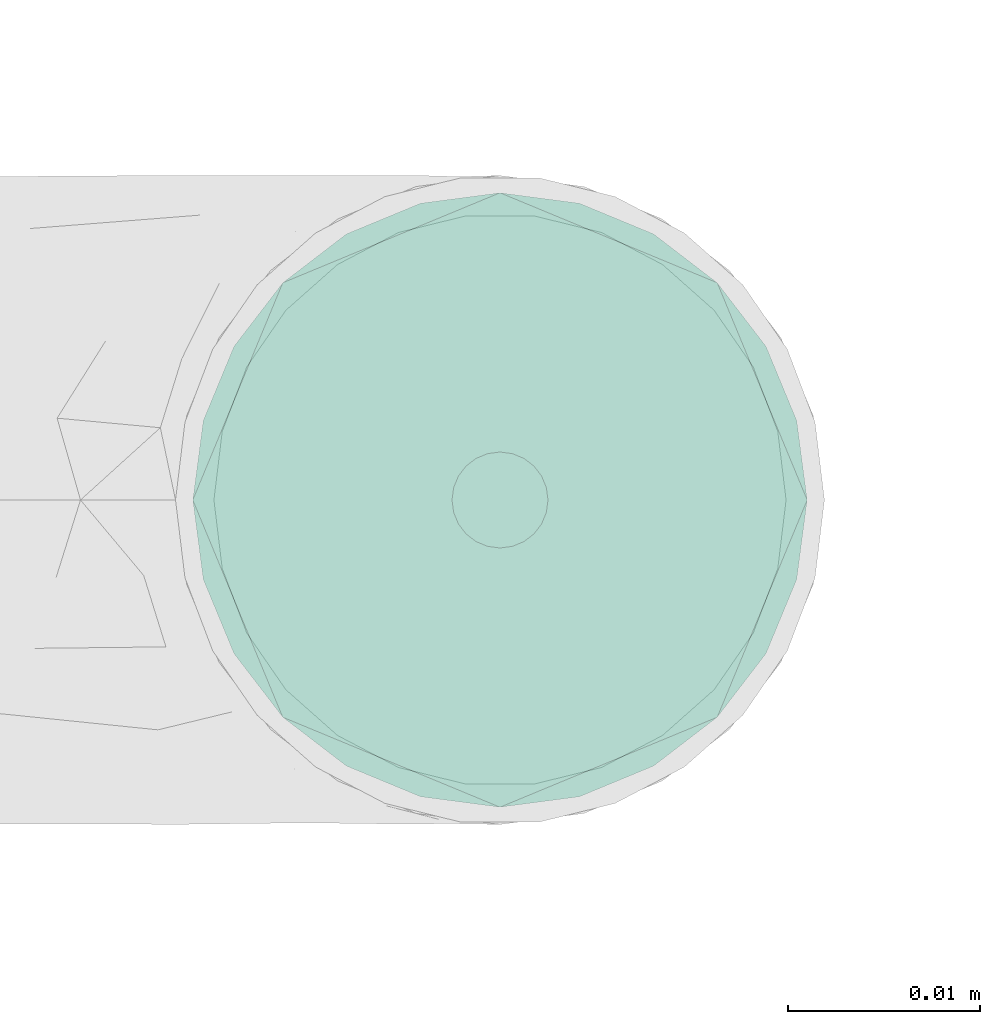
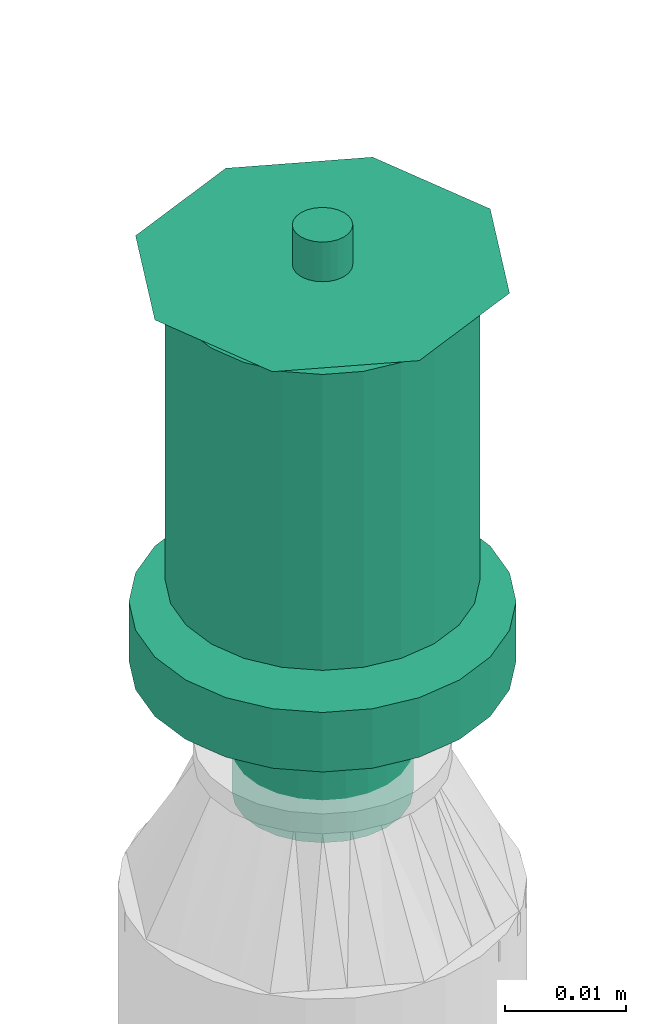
# One storey, part 54 of 63: 1 flow terminal.
"""IFC2X3 building model written with IfcOpenShell, lengths in millimetres."""

import ifcopenshell
import ifcopenshell.guid

model = None  # the IFC model being written
_history = None  # IfcOwnerHistory: only IFC2X3 demands one
_inside = {}  # id of a spatial element -> (the spatial element, [elements in it])
_under = {}  # id of a project, library or spatial element -> (it, [spatial elements below it])
_declared = {}  # id of a project -> (the project, [libraries it declares])
_typed = {}  # id of a type object -> (the type object, [elements of that type])
_made_of = {}  # id of a material, layer set ... -> (it, [elements and type objects made of it])


def new_model(schema):
    """Start an empty IFC model of exactly this schema.

    Asked for "IFC4X3", IfcOpenShell would pick the latest addendum, in which some entities
    have other attributes; the version numbers below select the first issue.
    IFC2X3 requires an IfcOwnerHistory on every rooted entity: one is made here for all.
    """
    global model, _history
    if schema == "IFC4X3":
        model = ifcopenshell.file(schema_version=(4, 3, 0, 0))
    else:
        model = ifcopenshell.file(schema=schema)
    _inside.clear()
    _under.clear()
    _declared.clear()
    _typed.clear()
    _made_of.clear()
    _history = None
    if model.schema == "IFC2X3":
        org = make("IfcOrganization", Name="unknown")
        user = make(
            "IfcPersonAndOrganization",
            ThePerson=make("IfcPerson", FamilyName="unknown"),
            TheOrganization=org,
        )
        app = make(
            "IfcApplication",
            ApplicationDeveloper=org,
            Version="unknown",
            ApplicationFullName="unknown",
            ApplicationIdentifier="unknown",
        )
        _history = make(
            "IfcOwnerHistory",
            OwningUser=user,
            OwningApplication=app,
            ChangeAction="ADDED",
            CreationDate=0,
        )
    return model


def make(cls, **values):
    """One entity of the class cls with the attributes given. An attribute that is None is left unset."""
    return model.create_entity(
        cls, **{name: value for name, value in values.items() if value is not None}
    )


def entity(cls, *values):
    """Any entity or typed value of the class cls, its attributes in the order of the schema. None: left unset."""
    e = model.create_entity(cls)
    for i, value in enumerate(values):
        if value is not None:
            e[i] = value
    return e


def rooted(cls, **values):
    """An entity with a GlobalId (a new one), such as an element, a storey or a relation."""
    return make(cls, GlobalId=ifcopenshell.guid.new(), OwnerHistory=_history, **values)


def si_unit(unit_type, name, prefix=None):
    """IfcSIUnit, for example si_unit("LENGTHUNIT", "METRE", prefix="MILLI")."""
    return make("IfcSIUnit", UnitType=unit_type, Prefix=prefix, Name=name)


def converted_unit(unit_type, name, factor, base, dimensions=None, offset=None):
    """IfcConversionBasedUnit, such as the inch: factor (a typed value) times the base unit."""
    return make(
        "IfcConversionBasedUnit"
        if offset is None
        else "IfcConversionBasedUnitWithOffset",
        ConversionOffset=offset,
        Dimensions=None
        if dimensions is None
        else entity("IfcDimensionalExponents", *dimensions),
        UnitType=unit_type,
        Name=name,
        ConversionFactor=make(
            "IfcMeasureWithUnit", ValueComponent=factor, UnitComponent=base
        ),
    )


def derived_unit(unit_type, elements):
    """IfcDerivedUnit: a product of units, each with its exponent."""
    return make(
        "IfcDerivedUnit",
        Elements=[
            make("IfcDerivedUnitElement", Unit=unit, Exponent=power)
            for unit, power in elements
        ],
        UnitType=unit_type,
    )


def assignment(units):
    """IfcUnitAssignment: the units of a project."""
    return None if units is None else make("IfcUnitAssignment", Units=units)


def point(xyz):
    """IfcCartesianPoint."""
    return None if xyz is None else make("IfcCartesianPoint", Coordinates=xyz)


def direction(xyz):
    """IfcDirection."""
    return None if xyz is None else make("IfcDirection", DirectionRatios=xyz)


def frame(location, z_axis=None, x_axis=None):
    """IfcAxis2Placement3D, a coordinate frame: its origin and axes. An axis left out is left unset."""
    return make(
        "IfcAxis2Placement3D",
        Location=point(location),
        Axis=direction(z_axis),
        RefDirection=direction(x_axis),
    )


def origin_with_axes():
    """The frame at (0, 0, 0) with the z axis (0, 0, 1) and the x axis (1, 0, 0) written out."""
    return frame((0.0, 0.0, 0.0), z_axis=(0.0, 0.0, 1.0), x_axis=(1.0, 0.0, 0.0))


def place(relative_to, where):
    """IfcLocalPlacement: puts the frame where relative to a parent placement (None: the world)."""
    return make(
        "IfcLocalPlacement", PlacementRelTo=relative_to, RelativePlacement=where
    )


def context(
    kind, dimensions, precision=None, world=None, true_north=None, identifier=None
):
    """IfcGeometricRepresentationContext, for example the 3D "Model" context."""
    return make(
        "IfcGeometricRepresentationContext",
        ContextIdentifier=identifier,
        ContextType=kind,
        CoordinateSpaceDimension=dimensions,
        Precision=precision,
        WorldCoordinateSystem=world,
        TrueNorth=true_north,
    )


def subcontext(parent, identifier, kind, view, scale=None):
    """IfcGeometricRepresentationSubContext, for example "Body" below "Model"."""
    return make(
        "IfcGeometricRepresentationSubContext",
        ContextIdentifier=identifier,
        ContextType=kind,
        ParentContext=parent,
        TargetScale=scale,
        TargetView=view,
    )


def project(units=None, contexts=None):
    """IfcProject with its units and contexts."""
    return rooted(
        "IfcProject",
        Name="project",
        RepresentationContexts=contexts,
        UnitsInContext=assignment(units),
    )


def spatial(cls, under=None, at=None, **own):
    """A site, building, storey or space (cls), placed at a placement, below another one or the project."""
    s = rooted(cls, ObjectPlacement=at, **own)
    if under is not None:
        _under.setdefault(under.id(), (under, []))[1].append(s)
    return s


def faces_of(points, faces, orient=None, outer=None):
    """IfcFace entities. A face is a list of loops; a loop is a list of indices into points, from 0.

    orient and outer hold one flag for each loop. By default every Orientation is true, the
    first loop of a face is its IfcFaceOuterBound and the others are IfcFaceBound.
    """
    made = []
    for i, loops in enumerate(faces):
        bounds = []
        for j, loop in enumerate(loops):
            is_outer = j == 0 if outer is None else outer[i][j]
            bounds.append(
                make(
                    "IfcFaceOuterBound" if is_outer else "IfcFaceBound",
                    Bound=make("IfcPolyLoop", Polygon=[points[k] for k in loop]),
                    Orientation=True if orient is None else orient[i][j],
                )
            )
        made.append(make("IfcFace", Bounds=bounds))
    return made


def open_shell(faces, orient=None, outer=None):
    """The faces of one IfcOpenShell. surface_model builds it on its shared points."""
    return ("IfcOpenShell", faces, orient, outer)


def surface_model(cls, points, shells):
    """IfcFaceBasedSurfaceModel or IfcShellBasedSurfaceModel (cls): surfaces that need not close."""
    shared = [point(p) for p in points]
    made = [make(c, CfsFaces=faces_of(shared, fs, o, b)) for c, fs, o, b in shells]
    if cls == "IfcFaceBasedSurfaceModel":
        return make(cls, FbsmFaces=made)
    return make(cls, SbsmBoundary=made)


def shape(context_of_items, identifier, shape_type, items):
    """IfcShapeRepresentation: the items that make up one representation, for example the "Body"."""
    return make(
        "IfcShapeRepresentation",
        ContextOfItems=context_of_items,
        RepresentationIdentifier=identifier,
        RepresentationType=shape_type,
        Items=items,
    )


def source(mapping_origin, context_of_items, identifier, shape_type, items):
    """IfcRepresentationMap: a shape defined once, which mapped items show again and again."""
    return make(
        "IfcRepresentationMap",
        MappingOrigin=mapping_origin,
        MappedRepresentation=shape(context_of_items, identifier, shape_type, items),
    )


def transform(
    local_origin,
    x_axis=None,
    y_axis=None,
    z_axis=None,
    scale=None,
    scale2=None,
    scale3=None,
    uniform=True,
):
    """IfcCartesianTransformationOperator3D, or its non-uniform kind. x_axis, y_axis, z_axis: its Axis1, 2, 3."""
    if uniform:
        return make(
            "IfcCartesianTransformationOperator3D",
            Axis1=direction(x_axis),
            Axis2=direction(y_axis),
            LocalOrigin=point(local_origin),
            Scale=scale,
            Axis3=direction(z_axis),
        )
    return make(
        "IfcCartesianTransformationOperator3DnonUniform",
        Axis1=direction(x_axis),
        Axis2=direction(y_axis),
        LocalOrigin=point(local_origin),
        Scale=scale,
        Axis3=direction(z_axis),
        Scale2=scale2,
        Scale3=scale3,
    )


def mapped(mapping_source, mapping_target):
    """IfcMappedItem: shows the shape of a source again, moved by a transform."""
    return make(
        "IfcMappedItem", MappingSource=mapping_source, MappingTarget=mapping_target
    )


def made_of(thing, what):
    """Note that an element or type object is made of a material, layer set ...; save() writes the relation."""
    if what is not None:
        _made_of.setdefault(what.id(), (what, []))[1].append(thing)
    return thing


def type_object(cls, material=None, **own):
    """A type object (cls), such as IfcWallType, which elements share."""
    return made_of(rooted(cls, **own), material)


def element(
    cls,
    number,
    at=None,
    inside=None,
    cuts=None,
    type_object=None,
    material=None,
    context=None,
    identifier="Body",
    shape_type=None,
    held_by="IfcProductDefinitionShape",
    body=None,
    shapes=None,
    **own,
):
    """One element of the class cls, such as IfcWall. Its Tag is "e" and its number.

    at: its placement. inside: the storey or other place that contains it. cuts: it is an
    opening in that element (IfcRelVoidsElement). A single representation is given by context,
    identifier, shape_type and body (its items); several are given by shapes. held_by: the class
    of the entity that holds the representations. save() writes the other relations.
    """
    e = rooted(cls, Tag="e%d" % number, ObjectPlacement=at, **own)
    if body is not None:
        shapes = [shape(context, identifier, shape_type, body)]
    if shapes is not None:
        e.Representation = make(held_by, Representations=shapes)
    if inside is not None:
        _inside.setdefault(inside.id(), (inside, []))[1].append(e)
    if cuts is not None:
        rooted(
            "IfcRelVoidsElement", RelatingBuildingElement=cuts, RelatedOpeningElement=e
        )
    if type_object is not None:
        _typed.setdefault(type_object.id(), (type_object, []))[1].append(e)
    return made_of(e, material)


def aggregate(whole, parts):
    """IfcRelAggregates: a whole, such as a stair, and the parts it consists of."""
    return rooted("IfcRelAggregates", RelatingObject=whole, RelatedObjects=parts)


def save(model, path):
    """Write the relations noted so far, then the file.

    IfcRelAggregates (storeys below a building ...), IfcRelContainedInSpatialStructure (elements
    in a storey), IfcRelDefinesByType, IfcRelAssociatesMaterial and IfcRelDeclares: one each for
    every whole, place, type object, material and project.
    """
    for whole, parts in _under.values():
        aggregate(whole, parts)
    for where, things in _inside.values():
        rooted(
            "IfcRelContainedInSpatialStructure",
            RelatedElements=things,
            RelatingStructure=where,
        )
    for kind, things in _typed.values():
        rooted("IfcRelDefinesByType", RelatedObjects=things, RelatingType=kind)
    for what, things in _made_of.values():
        rooted("IfcRelAssociatesMaterial", RelatedObjects=things, RelatingMaterial=what)
    for by, libraries in _declared.values():
        rooted("IfcRelDeclares", RelatingContext=by, RelatedDefinitions=libraries)
    model.write(path)


model = new_model("IFC2X3")

# Units and contexts
model_context = context("Model", 3, precision=0.01, world=frame((0.0, 4.29681676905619e-09, 0.0)), true_north=direction((4.01073788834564e-13, 1.0)))
plan_context = context("Plan", 3, precision=0.01, world=frame((0.0, 4.29681676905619e-09, 0.0)), true_north=direction((4.01073788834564e-13, 1.0)))
body_context = subcontext(model_context, "Body", "Model", "MODEL_VIEW")
ifc_project = project(units=[converted_unit("PLANEANGLEUNIT", "DEGREE", entity("IfcPositiveLengthMeasure", 0.0174532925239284), si_unit("PLANEANGLEUNIT", "RADIAN"), dimensions=[0, 0, 0, 0, 0, 0, 0]), si_unit("AREAUNIT", "SQUARE_METRE"), si_unit("LENGTHUNIT", "METRE", prefix="MILLI"), si_unit("MASSUNIT", "GRAM", prefix="KILO"), si_unit("POWERUNIT", "WATT"), si_unit("PRESSUREUNIT", "PASCAL", prefix="KILO"), si_unit("FORCEUNIT", "NEWTON", prefix="KILO"), si_unit("ELECTRICVOLTAGEUNIT", "VOLT"), si_unit("ELECTRICCURRENTUNIT", "AMPERE"), si_unit("THERMODYNAMICTEMPERATUREUNIT", "DEGREE_CELSIUS"), si_unit("TIMEUNIT", "SECOND"), si_unit("VOLUMEUNIT", "CUBIC_METRE"), derived_unit("LINEARVELOCITYUNIT", [(si_unit("LENGTHUNIT", "METRE"), 1), (si_unit("TIMEUNIT", "SECOND"), -1)]), derived_unit("VOLUMETRICFLOWRATEUNIT", [(si_unit("VOLUMEUNIT", "CUBIC_METRE"), 1), (si_unit("TIMEUNIT", "SECOND"), -1)]), derived_unit("THERMALTRANSMITTANCEUNIT", [(si_unit("POWERUNIT", "WATT"), 1), (si_unit("THERMODYNAMICTEMPERATUREUNIT", "KELVIN"), -1), (si_unit("AREAUNIT", "SQUARE_METRE"), -1)]), derived_unit("SOUNDPRESSUREUNIT", [(si_unit("PRESSUREUNIT", "PASCAL"), 1)])], contexts=[model_context, plan_context])

# Site, building, storey
site_placement = place(None, frame((0.0, -4.29681676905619e-09, 0.0), z_axis=(0.0, 0.0, 1.0), x_axis=(1.0, 0.0, 0.0)))
site = spatial("IfcSite", under=ifc_project, at=site_placement, CompositionType="ELEMENT")
building_placement = place(site_placement, frame((0.0, 4.29681676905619e-09, 0.0), z_axis=(0.0, 0.0, 1.0), x_axis=(1.0, 0.0, 0.0)))
building = spatial("IfcBuilding", under=site, at=building_placement, Name="mc-building", CompositionType="ELEMENT")
storey_placement = place(building_placement, frame((0.0, 0.0, 207370.0), z_axis=(0.0, 0.0, 1.0), x_axis=(1.0, 0.0, 0.0)))
storey = spatial("IfcBuildingStorey", under=building, at=storey_placement, Name="Nivå E", CompositionType="ELEMENT", Elevation=207370.0)

# Flow terminal
fire_suppression_terminal_type = type_object("IfcFireSuppressionTerminalType", Name="68DGR-STD-STÅENDE", PredefinedType="NOTDEFINED")
shared_shape = source(origin_with_axes(), body_context, "Body", "SurfaceModel", [
    surface_model("IfcShellBasedSurfaceModel", [(3.36465, -12.55704, 51.0), (6.5, -11.25833, 51.0), (9.19239, -9.19239, 51.0), (12.55704, -3.36465, 51.0), (-11.25833, -6.5, 51.0), (11.25833, -6.5, 51.0), (-13.0, 0.0, 51.0), (0.0, -13.0, 51.0), (-6.5, -11.25833, 51.0), (-3.36465, -12.55704, 51.0), (-9.19239, -9.19239, 51.0), (-12.55704, -3.36465, 51.0), (13.0, 0.0, 51.0), (12.55704, 3.36465, 51.0), (11.25833, 6.5, 51.0), (9.19239, 9.19239, 51.0), (6.5, 11.25833, 51.0), (3.36465, 12.55704, 51.0), (0.0, 13.0, 51.0), (-3.36465, 12.55704, 51.0), (-12.55704, 3.36465, 51.0), (-9.19239, 9.19239, 51.0), (-11.25833, 6.5, 51.0), (-6.5, 11.25833, 51.0), (0.0, 13.0, 21.14766), (3.36465, 12.55704, 21.14766), (6.5, 11.25833, 21.14766), (-3.36465, 12.55704, 21.14766), (9.19239, 9.19239, 21.14766), (11.25833, 6.5, 21.14766), (12.55704, 3.36465, 21.14766), (-12.55704, 3.36465, 21.14766), (-11.25833, -6.5, 21.14766), (-9.19239, 9.19239, 21.14766), (-6.5, 11.25833, 21.14766), (-11.25833, 6.5, 21.14766), (-13.0, 0.0, 21.14766), (12.55704, -3.36465, 21.14766), (9.19239, -9.19239, 21.14766), (11.25833, -6.5, 21.14766), (6.5, -11.25833, 21.14766), (3.36465, -12.55704, 21.14766), (-6.5, -11.25833, 21.14766), (-9.19239, -9.19239, 21.14766), (-12.55704, -3.36465, 21.14766), (0.0, -13.0, 21.14766), (-3.36465, -12.55704, 21.14766), (13.0, 0.0, 21.14766), (7.24444, -1.94114, 0.1), (1.94114, -7.24444, 0.1), (3.75, -6.49519, 0.1), (5.3033, -5.3033, 0.1), (-5.3033, -5.3033, 0.1), (6.49519, -3.75, 0.1), (5.3033, 5.3033, 0.1), (0.0, -7.5, 0.1), (-3.75, -6.49519, 0.1), (-1.94114, -7.24444, 0.1), (-7.24444, -1.94114, 0.1), (-6.49519, -3.75, 0.1), (-7.24444, 1.94114, 0.1), (7.5, 0.0, 0.1), (6.49519, 3.75, 0.1), (-6.49519, 3.75, 0.1), (1.94114, 7.24444, 0.1), (0.0, 7.5, 0.1), (3.75, 6.49519, 0.1), (-7.5, 0.0, 0.1), (-5.3033, 5.3033, 0.1), (-1.94114, 7.24444, 0.1), (-3.75, 6.49519, 0.1), (7.24444, 1.94114, 0.1), (1.94114, 7.24444, -0.1), (-6.49519, 3.75, -0.1), (0.0, 7.5, -0.1), (5.3033, 5.3033, -0.1), (3.75, 6.49519, -0.1), (6.49519, 3.75, -0.1), (7.24444, 1.94114, -0.1), (-1.94114, 7.24444, -0.1), (-5.3033, 5.3033, -0.1), (-3.75, 6.49519, -0.1), (-7.24444, 1.94114, -0.1), (-7.24444, -1.94114, -0.1), (-7.5, 0.0, -0.1), (7.5, 0.0, -0.1), (7.24444, -1.94114, -0.1), (-5.3033, -5.3033, -0.1), (1.94114, -7.24444, -0.1), (6.49519, -3.75, -0.1), (5.3033, -5.3033, -0.1), (3.75, -6.49519, -0.1), (-6.49519, -3.75, -0.1), (-3.75, -6.49519, -0.1), (0.0, -7.5, -0.1), (-1.94114, -7.24444, -0.1), (0.0, -2.5, 51.0), (-2.5, 0.0, 51.0), (0.0, 2.5, 51.0), (2.5, 0.0, 51.0), (0.0, -16.0, 53.0), (11.31371, -11.31371, 53.0), (-11.31371, -11.31371, 53.0), (-16.0, 0.0, 53.0), (16.0, 0.0, 53.0), (11.31371, 11.31371, 53.0), (0.0, 16.0, 53.0), (-11.31371, 11.31371, 53.0), (1.25, -2.16506, 57.0), (0.0, -2.5, 57.0), (0.64705, -2.41481, 57.0), (2.41481, -0.64705, 57.0), (1.76777, -1.76777, 57.0), (-2.41481, -0.64705, 57.0), (-2.5, 0.0, 57.0), (2.16506, -1.25, 57.0), (-1.25, -2.16506, 57.0), (-0.64705, -2.41481, 57.0), (-1.76777, -1.76777, 57.0), (-2.16506, -1.25, 57.0), (2.5, 0.0, 57.0), (2.41481, 0.64705, 57.0), (2.16506, 1.25, 57.0), (1.76777, 1.76777, 57.0), (0.64705, 2.41481, 57.0), (1.25, 2.16506, 57.0), (-1.76777, 1.76777, 57.0), (0.0, 2.5, 57.0), (-2.16506, 1.25, 57.0), (-2.41481, 0.64705, 57.0), (-0.64705, 2.41481, 57.0), (-1.25, 2.16506, 57.0), (1.25, 2.16506, 51.0), (1.76777, 1.76777, 51.0), (1.15, 1.99186, 51.0), (0.59528, 2.22163, 51.0), (0.64705, 2.41481, 51.0), (0.0, 2.3, 51.0), (1.62635, 1.62635, 51.0), (2.41481, 0.64705, 51.0), (2.3, 0.0, 51.0), (2.22163, 0.59528, 51.0), (2.16506, 1.25, 51.0), (1.99186, 1.15, 51.0), (-0.59528, 2.22163, 51.0), (-0.64705, 2.41481, 51.0), (-1.15, 1.99186, 51.0), (-1.76777, 1.76777, 51.0), (-1.25, 2.16506, 51.0), (-1.62635, 1.62635, 51.0), (-1.99186, 1.15, 51.0), (-2.16506, 1.25, 51.0), (-2.22163, 0.59528, 51.0), (-2.41481, 0.64705, 51.0), (-2.3, 0.0, 51.0), (2.41481, -0.64705, 51.0), (2.22163, -0.59528, 51.0), (1.99186, -1.15, 51.0), (2.16506, -1.25, 51.0), (1.62635, -1.62635, 51.0), (1.76777, -1.76777, 51.0), (1.25, -2.16506, 51.0), (1.15, -1.99186, 51.0), (0.59528, -2.22163, 51.0), (0.64705, -2.41481, 51.0), (0.0, -2.3, 51.0), (-2.16506, -1.25, 51.0), (-1.99186, -1.15, 51.0), (-1.76777, -1.76777, 51.0), (-1.62635, -1.62635, 51.0), (-2.41481, -0.64705, 51.0), (-2.22163, -0.59528, 51.0), (-0.59528, -2.22163, 51.0), (-0.64705, -2.41481, 51.0), (-1.15, -1.99186, 51.0), (-1.25, -2.16506, 51.0), (1.62635, -1.62635, 56.8), (1.15, -1.99186, 56.8), (0.59528, -2.22163, 56.8), (0.0, -2.3, 56.8), (2.22163, 0.59528, 56.8), (1.99186, -1.15, 56.8), (2.22163, -0.59528, 56.8), (-0.59528, -2.22163, 56.8), (-1.15, -1.99186, 56.8), (-1.62635, -1.62635, 56.8), (-1.99186, -1.15, 56.8), (-2.22163, -0.59528, 56.8), (-1.99186, 1.15, 56.8), (2.3, 0.0, 56.8), (1.62635, 1.62635, 56.8), (1.99186, 1.15, 56.8), (1.15, 1.99186, 56.8), (0.0, 2.3, 56.8), (0.59528, 2.22163, 56.8), (-2.22163, 0.59528, 56.8), (-2.3, 0.0, 56.8), (-1.15, 1.99186, 56.8), (-0.59528, 2.22163, 56.8), (-1.62635, 1.62635, 56.8), (4.1411, -15.45481, 19.0), (8.0, -13.85641, 19.0), (11.31371, -11.31371, 19.0), (-8.0, -13.85641, 19.0), (15.45481, -4.1411, 19.0), (16.0, 0.0, 19.0), (13.85641, -8.0, 19.0), (0.0, -16.0, 19.0), (-4.1411, -15.45481, 19.0), (-13.85641, -8.0, 19.0), (-11.31371, -11.31371, 19.0), (-15.45481, -4.1411, 19.0), (15.45481, 4.1411, 19.0), (13.85641, 8.0, 19.0), (11.31371, 11.31371, 19.0), (-4.1411, 15.45481, 19.0), (8.0, 13.85641, 19.0), (4.1411, 15.45481, 19.0), (0.0, 16.0, 19.0), (-13.85641, 8.0, 19.0), (-15.45481, 4.1411, 19.0), (-16.0, 0.0, 19.0), (-11.31371, 11.31371, 19.0), (-8.0, 13.85641, 19.0), (0.0, 16.0, 13.0), (4.1411, 15.45481, 13.0), (8.0, 13.85641, 13.0), (-4.1411, 15.45481, 13.0), (11.31371, 11.31371, 13.0), (13.85641, 8.0, 13.0), (15.45481, 4.1411, 13.0), (-15.45481, -4.1411, 13.0), (-11.31371, 11.31371, 13.0), (-8.0, 13.85641, 13.0), (-13.85641, 8.0, 13.0), (-15.45481, 4.1411, 13.0), (-16.0, 0.0, 13.0), (4.1411, -15.45481, 13.0), (16.0, 0.0, 13.0), (15.45481, -4.1411, 13.0), (13.85641, -8.0, 13.0), (11.31371, -11.31371, 13.0), (8.0, -13.85641, 13.0), (-8.0, -13.85641, 13.0), (-13.85641, -8.0, 13.0), (-11.31371, -11.31371, 13.0), (0.0, -16.0, 13.0), (-4.1411, -15.45481, 13.0), (7.24444, -1.94114, 13.0), (1.94114, -7.24444, 13.0), (3.75, -6.49519, 13.0), (5.3033, -5.3033, 13.0), (-5.3033, -5.3033, 13.0), (6.49519, -3.75, 13.0), (5.3033, 5.3033, 13.0), (0.0, -7.5, 13.0), (-3.75, -6.49519, 13.0), (-1.94114, -7.24444, 13.0), (-7.24444, -1.94114, 13.0), (-6.49519, -3.75, 13.0), (-7.24444, 1.94114, 13.0), (7.5, 0.0, 13.0), (6.49519, 3.75, 13.0), (-6.49519, 3.75, 13.0), (1.94114, 7.24444, 13.0), (0.0, 7.5, 13.0), (3.75, 6.49519, 13.0), (-7.5, 0.0, 13.0), (-5.3033, 5.3033, 13.0), (-1.94114, 7.24444, 13.0), (-3.75, 6.49519, 13.0), (7.24444, 1.94114, 13.0), (3.75, 6.49519, 0.0), (5.3033, 5.3033, 0.0), (3.65, 6.32199, 0.0), (1.88938, 7.05126, 0.0), (0.0, 7.3, 0.0), (1.94114, 7.24444, 0.0), (0.0, 7.5, 0.0), (5.16188, 5.16188, 0.0), (7.24444, 1.94114, 0.0), (7.3, 0.0, 0.0), (7.05126, 1.88938, 0.0), (7.5, 0.0, 0.0), (6.49519, 3.75, 0.0), (6.32199, 3.65, 0.0), (-1.88938, 7.05126, 0.0), (-1.94114, 7.24444, 0.0), (-3.65, 6.32199, 0.0), (-5.3033, 5.3033, 0.0), (-3.75, 6.49519, 0.0), (-5.16188, 5.16188, 0.0), (-6.32199, 3.65, 0.0), (-6.49519, 3.75, 0.0), (-7.05126, 1.88938, 0.0), (-7.24444, 1.94114, 0.0), (-7.3, 0.0, 0.0), (-7.5, 0.0, 0.0), (7.24444, -1.94114, 0.0), (7.05126, -1.88938, 0.0), (6.32199, -3.65, 0.0), (6.49519, -3.75, 0.0), (5.16188, -5.16188, 0.0), (5.3033, -5.3033, 0.0), (3.75, -6.49519, 0.0), (3.65, -6.32199, 0.0), (1.88938, -7.05126, 0.0), (1.94114, -7.24444, 0.0), (0.0, -7.3, 0.0), (0.0, -7.5, 0.0), (-6.49519, -3.75, 0.0), (-6.32199, -3.65, 0.0), (-5.3033, -5.3033, 0.0), (-5.16188, -5.16188, 0.0), (-7.24444, -1.94114, 0.0), (-7.05126, -1.88938, 0.0), (-1.88938, -7.05126, 0.0), (-1.94114, -7.24444, 0.0), (-3.65, -6.32199, 0.0), (-3.75, -6.49519, 0.0), (1.88938, -7.05126, 12.8), (0.0, -7.3, 12.8), (3.65, -6.32199, 12.8), (5.16188, -5.16188, 12.8), (6.32199, -3.65, 12.8), (7.05126, 1.88938, 12.8), (7.05126, -1.88938, 12.8), (-5.16188, -5.16188, 12.8), (-1.88938, -7.05126, 12.8), (-3.65, -6.32199, 12.8), (-6.32199, -3.65, 12.8), (-7.05126, -1.88938, 12.8), (0.0, 7.3, 12.8), (7.3, 0.0, 12.8), (6.32199, 3.65, 12.8), (5.16188, 5.16188, 12.8), (3.65, 6.32199, 12.8), (1.88938, 7.05126, 12.8), (-6.32199, 3.65, 12.8), (-7.05126, 1.88938, 12.8), (-7.3, 0.0, 12.8), (-3.65, 6.32199, 12.8), (-1.88938, 7.05126, 12.8), (-5.16188, 5.16188, 12.8)], [open_shell([[[0, 1, 2]], [[0, 2, 3]], [[0, 3, 4]], [[3, 2, 5]], [[6, 4, 3]], [[7, 8, 9]], [[7, 0, 8]], [[8, 4, 10]], [[0, 4, 8]], [[4, 6, 11]], [[6, 3, 12]], [[13, 14, 15]], [[6, 13, 15]], [[16, 17, 18]], [[15, 16, 19]], [[18, 19, 16]], [[20, 21, 22]], [[20, 6, 15]], [[21, 19, 23]], [[19, 21, 20]], [[15, 19, 20]], [[13, 6, 12]], [[24, 25, 26]], [[27, 24, 26]], [[28, 29, 30]], [[26, 28, 31]], [[28, 32, 31]], [[27, 33, 34]], [[33, 27, 31]], [[33, 31, 35]], [[27, 26, 31]], [[31, 32, 36]], [[32, 28, 30]], [[32, 30, 37]], [[38, 37, 39]], [[38, 40, 41]], [[38, 41, 37]], [[32, 37, 41]], [[32, 42, 43]], [[44, 36, 32]], [[42, 45, 46]], [[42, 32, 41]], [[45, 42, 41]], [[30, 47, 37]], [[4, 32, 43]], [[8, 42, 46]], [[43, 42, 10]], [[9, 46, 45]], [[36, 11, 6]], [[11, 36, 44]], [[11, 44, 4]], [[44, 32, 4]], [[43, 10, 4]], [[8, 10, 42]], [[46, 9, 8]], [[45, 7, 9]], [[0, 41, 40]], [[38, 1, 40]], [[5, 39, 37]], [[38, 39, 2]], [[3, 37, 47]], [[41, 0, 7]], [[40, 1, 0]], [[38, 2, 1]], [[39, 5, 2]], [[3, 5, 37]], [[47, 12, 3]], [[41, 7, 45]], [[30, 13, 47]], [[29, 14, 30]], [[25, 24, 17]], [[15, 29, 28]], [[30, 14, 13]], [[13, 12, 47]], [[16, 26, 17]], [[16, 15, 28]], [[26, 25, 17]], [[15, 14, 29]], [[28, 26, 16]], [[24, 18, 17]], [[19, 27, 34]], [[33, 23, 34]], [[22, 35, 31]], [[33, 35, 21]], [[20, 31, 36]], [[27, 19, 18]], [[34, 23, 19]], [[33, 21, 23]], [[35, 22, 21]], [[20, 22, 31]], [[36, 6, 20]], [[27, 18, 24]], [[48, 49, 50]], [[48, 50, 51]], [[49, 48, 52]], [[48, 51, 53]], [[54, 52, 48]], [[55, 56, 57]], [[56, 55, 52]], [[52, 58, 59]], [[52, 55, 49]], [[52, 60, 58]], [[54, 48, 61]], [[62, 54, 61]], [[54, 63, 52]], [[64, 65, 54]], [[64, 54, 66]], [[63, 54, 65]], [[63, 60, 52]], [[67, 58, 60]], [[68, 69, 70]], [[69, 68, 63]], [[69, 63, 65]], [[71, 62, 61]], [[72, 73, 74]], [[75, 72, 76]], [[75, 77, 78]], [[72, 75, 73]], [[78, 73, 75]], [[79, 80, 81]], [[80, 79, 73]], [[74, 73, 79]], [[78, 82, 73]], [[82, 83, 84]], [[82, 78, 85]], [[86, 87, 85]], [[88, 86, 89]], [[90, 91, 88]], [[90, 88, 89]], [[87, 86, 88]], [[83, 87, 92]], [[83, 85, 87]], [[93, 94, 95]], [[94, 93, 87]], [[88, 94, 87]], [[85, 83, 82]], [[83, 58, 84]], [[92, 59, 83]], [[56, 87, 93]], [[92, 87, 52]], [[57, 93, 95]], [[83, 59, 58]], [[58, 67, 84]], [[57, 56, 93]], [[52, 87, 56]], [[52, 59, 92]], [[55, 57, 95]], [[95, 94, 55]], [[88, 49, 94]], [[91, 50, 88]], [[53, 90, 89]], [[91, 90, 51]], [[48, 89, 86]], [[91, 51, 50]], [[50, 49, 88]], [[61, 48, 86]], [[53, 89, 48]], [[53, 51, 90]], [[85, 61, 86]], [[94, 49, 55]], [[78, 71, 85]], [[77, 62, 78]], [[66, 75, 76]], [[77, 75, 54]], [[64, 76, 72]], [[78, 62, 71]], [[71, 61, 85]], [[64, 66, 76]], [[54, 75, 66]], [[54, 62, 77]], [[65, 64, 72]], [[72, 74, 65]], [[79, 69, 74]], [[81, 70, 79]], [[63, 80, 73]], [[81, 80, 68]], [[60, 73, 82]], [[81, 68, 70]], [[70, 69, 79]], [[67, 60, 82]], [[63, 73, 60]], [[63, 68, 80]], [[84, 67, 82]], [[74, 69, 65]], [[96, 97, 98]], [[98, 99, 96]], [[100, 101, 102]], [[103, 102, 101]], [[101, 104, 103]], [[104, 105, 106]], [[107, 103, 106]], [[106, 103, 104]], [[99, 98, 105]], [[105, 104, 99]], [[98, 106, 105]], [[98, 107, 106]], [[107, 98, 97]], [[103, 107, 97]], [[97, 96, 102]], [[102, 103, 97]], [[96, 100, 102]], [[96, 101, 100]], [[101, 96, 99]], [[104, 101, 99]], [[108, 109, 110]], [[111, 108, 112]], [[113, 108, 114]], [[111, 112, 115]], [[108, 111, 114]], [[109, 116, 117]], [[116, 109, 118]], [[118, 113, 119]], [[118, 109, 108]], [[108, 113, 118]], [[111, 120, 114]], [[121, 122, 123]], [[114, 121, 123]], [[114, 123, 124]], [[124, 123, 125]], [[126, 124, 127]], [[124, 128, 129]], [[129, 114, 124]], [[126, 130, 131]], [[128, 124, 126]], [[130, 126, 127]], [[121, 114, 120]], [[132, 133, 134]], [[132, 134, 135]], [[136, 135, 137]], [[135, 136, 132]], [[136, 137, 98]], [[134, 133, 138]], [[139, 140, 141]], [[140, 139, 99]], [[139, 141, 142]], [[138, 142, 143]], [[142, 138, 133]], [[143, 142, 141]], [[98, 144, 145]], [[98, 137, 144]], [[145, 144, 146]], [[147, 148, 149]], [[146, 148, 145]], [[149, 148, 146]], [[150, 151, 147]], [[151, 150, 152]], [[150, 147, 149]], [[153, 152, 154]], [[152, 153, 151]], [[153, 154, 97]], [[99, 155, 156]], [[156, 155, 157]], [[157, 158, 159]], [[158, 157, 155]], [[159, 158, 160]], [[160, 161, 162]], [[162, 161, 163]], [[163, 164, 165]], [[164, 163, 161]], [[165, 164, 96]], [[162, 159, 160]], [[166, 167, 168]], [[168, 167, 169]], [[167, 166, 170]], [[97, 171, 170]], [[170, 171, 167]], [[97, 154, 171]], [[172, 96, 173]], [[172, 173, 174]], [[169, 175, 168]], [[175, 169, 174]], [[175, 174, 173]], [[165, 96, 172]], [[156, 140, 99]], [[170, 113, 97]], [[166, 119, 170]], [[116, 168, 175]], [[166, 168, 118]], [[117, 175, 173]], [[170, 119, 113]], [[113, 114, 97]], [[117, 116, 175]], [[118, 168, 116]], [[118, 119, 166]], [[109, 117, 173]], [[173, 96, 109]], [[164, 110, 96]], [[161, 108, 164]], [[115, 160, 158]], [[161, 160, 112]], [[111, 158, 155]], [[161, 112, 108]], [[108, 110, 164]], [[120, 111, 155]], [[115, 158, 111]], [[115, 112, 160]], [[99, 120, 155]], [[96, 110, 109]], [[139, 121, 99]], [[142, 122, 139]], [[125, 133, 132]], [[142, 133, 123]], [[124, 132, 136]], [[139, 122, 121]], [[121, 120, 99]], [[124, 125, 132]], [[123, 133, 125]], [[123, 122, 142]], [[127, 124, 136]], [[136, 98, 127]], [[145, 130, 98]], [[148, 131, 145]], [[128, 147, 151]], [[148, 147, 126]], [[129, 151, 153]], [[148, 126, 131]], [[131, 130, 145]], [[114, 129, 153]], [[128, 151, 129]], [[128, 126, 147]], [[97, 114, 153]], [[98, 130, 127]], [[176, 177, 178]], [[176, 178, 179]], [[180, 176, 179]], [[181, 176, 182]], [[180, 182, 176]], [[183, 184, 179]], [[185, 179, 184]], [[186, 187, 185]], [[185, 187, 188]], [[179, 185, 188]], [[189, 182, 180]], [[190, 191, 180]], [[192, 190, 180]], [[193, 194, 192]], [[180, 193, 192]], [[188, 193, 180]], [[195, 188, 196]], [[196, 188, 187]], [[197, 198, 199]], [[188, 199, 198]], [[188, 198, 193]], [[180, 179, 188]], [[154, 187, 171]], [[171, 186, 167]], [[174, 169, 184]], [[185, 169, 167]], [[172, 174, 183]], [[187, 186, 171]], [[154, 196, 187]], [[174, 184, 183]], [[184, 169, 185]], [[167, 186, 185]], [[172, 183, 179]], [[179, 165, 172]], [[165, 178, 163]], [[163, 177, 162]], [[157, 159, 181]], [[176, 159, 162]], [[156, 157, 182]], [[177, 176, 162]], [[163, 178, 177]], [[156, 182, 189]], [[182, 157, 181]], [[159, 176, 181]], [[156, 189, 140]], [[179, 178, 165]], [[140, 180, 141]], [[141, 191, 143]], [[134, 138, 192]], [[190, 138, 143]], [[135, 134, 194]], [[180, 191, 141]], [[140, 189, 180]], [[134, 192, 194]], [[192, 138, 190]], [[143, 191, 190]], [[135, 194, 193]], [[193, 137, 135]], [[137, 198, 144]], [[144, 197, 146]], [[150, 149, 188]], [[199, 149, 146]], [[152, 150, 195]], [[197, 199, 146]], [[144, 198, 197]], [[152, 195, 196]], [[195, 150, 188]], [[149, 199, 188]], [[152, 196, 154]], [[193, 198, 137]], [[200, 201, 202]], [[203, 200, 202]], [[204, 205, 202]], [[204, 202, 206]], [[203, 202, 205]], [[207, 203, 208]], [[207, 200, 203]], [[203, 209, 210]], [[209, 203, 211]], [[205, 211, 203]], [[205, 212, 211]], [[212, 213, 214]], [[215, 212, 214]], [[216, 217, 218]], [[214, 216, 215]], [[218, 215, 216]], [[211, 219, 220]], [[221, 211, 220]], [[222, 215, 223]], [[215, 222, 219]], [[219, 211, 215]], [[211, 212, 215]], [[224, 225, 226]], [[227, 224, 226]], [[228, 229, 230]], [[227, 226, 228]], [[227, 228, 231]], [[227, 232, 233]], [[232, 227, 234]], [[234, 231, 235]], [[231, 234, 227]], [[235, 231, 236]], [[228, 230, 231]], [[237, 238, 239]], [[237, 239, 240]], [[241, 242, 237]], [[241, 237, 240]], [[238, 237, 243]], [[244, 243, 245]], [[243, 244, 231]], [[243, 246, 247]], [[243, 231, 238]], [[237, 246, 243]], [[238, 231, 230]], [[231, 211, 236]], [[244, 209, 231]], [[203, 245, 243]], [[244, 245, 210]], [[208, 243, 247]], [[231, 209, 211]], [[211, 221, 236]], [[208, 203, 243]], [[210, 245, 203]], [[210, 209, 244]], [[207, 208, 247]], [[247, 246, 207]], [[237, 200, 246]], [[242, 201, 237]], [[206, 241, 240]], [[242, 241, 202]], [[204, 240, 239]], [[242, 202, 201]], [[201, 200, 237]], [[205, 204, 239]], [[206, 240, 204]], [[206, 202, 241]], [[238, 205, 239]], [[246, 200, 207]], [[230, 212, 238]], [[229, 213, 230]], [[216, 228, 226]], [[229, 228, 214]], [[217, 226, 225]], [[230, 213, 212]], [[212, 205, 238]], [[217, 216, 226]], [[214, 228, 216]], [[214, 213, 229]], [[218, 217, 225]], [[225, 224, 218]], [[227, 215, 224]], [[233, 223, 227]], [[219, 232, 234]], [[233, 232, 222]], [[220, 234, 235]], [[233, 222, 223]], [[223, 215, 227]], [[221, 220, 235]], [[219, 234, 220]], [[219, 222, 232]], [[236, 221, 235]], [[224, 215, 218]], [[248, 249, 250]], [[248, 250, 251]], [[249, 248, 252]], [[248, 251, 253]], [[254, 252, 248]], [[255, 256, 257]], [[256, 255, 252]], [[252, 258, 259]], [[252, 255, 249]], [[252, 260, 258]], [[254, 248, 261]], [[262, 254, 261]], [[254, 263, 252]], [[264, 265, 254]], [[264, 254, 266]], [[263, 254, 265]], [[263, 260, 252]], [[267, 258, 260]], [[268, 269, 270]], [[269, 268, 263]], [[269, 263, 265]], [[271, 262, 261]], [[272, 273, 274]], [[272, 274, 275]], [[276, 277, 275]], [[277, 276, 278]], [[275, 277, 272]], [[274, 273, 279]], [[280, 281, 282]], [[281, 280, 283]], [[280, 282, 284]], [[279, 284, 285]], [[284, 279, 273]], [[285, 284, 282]], [[278, 286, 287]], [[287, 286, 288]], [[289, 290, 291]], [[288, 290, 287]], [[288, 291, 290]], [[278, 276, 286]], [[292, 293, 289]], [[293, 292, 294]], [[292, 289, 291]], [[295, 294, 296]], [[294, 295, 293]], [[295, 296, 297]], [[283, 298, 299]], [[299, 298, 300]], [[300, 301, 302]], [[301, 300, 298]], [[302, 301, 303]], [[303, 304, 305]], [[305, 304, 306]], [[306, 307, 308]], [[307, 306, 304]], [[308, 307, 309]], [[305, 302, 303]], [[310, 311, 312]], [[312, 311, 313]], [[311, 310, 314]], [[297, 315, 314]], [[314, 315, 311]], [[297, 296, 315]], [[316, 309, 317]], [[316, 317, 318]], [[313, 319, 312]], [[313, 318, 319]], [[319, 318, 317]], [[308, 309, 316]], [[299, 281, 283]], [[314, 258, 297]], [[310, 259, 314]], [[256, 312, 319]], [[310, 312, 252]], [[257, 319, 317]], [[314, 259, 258]], [[258, 267, 297]], [[257, 256, 319]], [[252, 312, 256]], [[252, 259, 310]], [[255, 257, 317]], [[317, 309, 255]], [[307, 249, 309]], [[304, 250, 307]], [[253, 303, 301]], [[304, 303, 251]], [[248, 301, 298]], [[304, 251, 250]], [[250, 249, 307]], [[261, 248, 298]], [[253, 301, 248]], [[253, 251, 303]], [[283, 261, 298]], [[309, 249, 255]], [[280, 271, 283]], [[284, 262, 280]], [[266, 273, 272]], [[284, 273, 254]], [[264, 272, 277]], [[280, 262, 271]], [[271, 261, 283]], [[264, 266, 272]], [[254, 273, 266]], [[254, 262, 284]], [[265, 264, 277]], [[277, 278, 265]], [[287, 269, 278]], [[290, 270, 287]], [[263, 289, 293]], [[290, 289, 268]], [[260, 293, 295]], [[290, 268, 270]], [[270, 269, 287]], [[267, 260, 295]], [[263, 293, 260]], [[263, 268, 289]], [[297, 267, 295]], [[278, 269, 265]], [[320, 321, 322]], [[323, 322, 324]], [[325, 326, 322]], [[324, 322, 326]], [[322, 327, 325]], [[328, 329, 321]], [[327, 321, 329]], [[330, 331, 327]], [[322, 321, 327]], [[331, 332, 327]], [[326, 325, 333]], [[334, 325, 332]], [[335, 334, 336]], [[332, 337, 336]], [[334, 332, 336]], [[331, 338, 332]], [[339, 338, 340]], [[340, 338, 331]], [[341, 342, 343]], [[332, 338, 343]], [[332, 343, 342]], [[332, 325, 327]], [[296, 331, 315]], [[315, 330, 311]], [[318, 313, 329]], [[327, 313, 311]], [[316, 318, 328]], [[331, 330, 315]], [[296, 340, 331]], [[318, 329, 328]], [[329, 313, 327]], [[311, 330, 327]], [[316, 328, 321]], [[321, 308, 316]], [[308, 320, 306]], [[306, 322, 305]], [[300, 302, 324]], [[323, 302, 305]], [[299, 300, 326]], [[322, 323, 305]], [[306, 320, 322]], [[299, 326, 333]], [[326, 300, 324]], [[302, 323, 324]], [[299, 333, 281]], [[321, 320, 308]], [[281, 325, 282]], [[282, 334, 285]], [[274, 279, 336]], [[335, 279, 285]], [[275, 274, 337]], [[325, 334, 282]], [[281, 333, 325]], [[274, 336, 337]], [[336, 279, 335]], [[285, 334, 335]], [[275, 337, 332]], [[332, 276, 275]], [[276, 342, 286]], [[286, 341, 288]], [[292, 291, 338]], [[343, 291, 288]], [[294, 292, 339]], [[341, 343, 288]], [[286, 342, 341]], [[294, 339, 340]], [[339, 292, 338]], [[291, 343, 338]], [[294, 340, 296]], [[332, 342, 276]]])]),
])
flow_terminal_placement = place(storey_placement, frame((726011.70373, 446158.4735, 3027.71994000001), z_axis=(0.0, 0.0, 1.0), x_axis=(1.0, 0.0, 0.0)))
element("IfcFlowTerminal", 1, at=flow_terminal_placement, inside=storey, type_object=fire_suppression_terminal_type, Name="68DGR-STD-STÅENDE", context=body_context, shape_type="MappedRepresentation", body=[
    mapped(shared_shape, transform((0.0, 0.0, 0.0), scale=1.0)),
])

save(model, "model.ifc")
